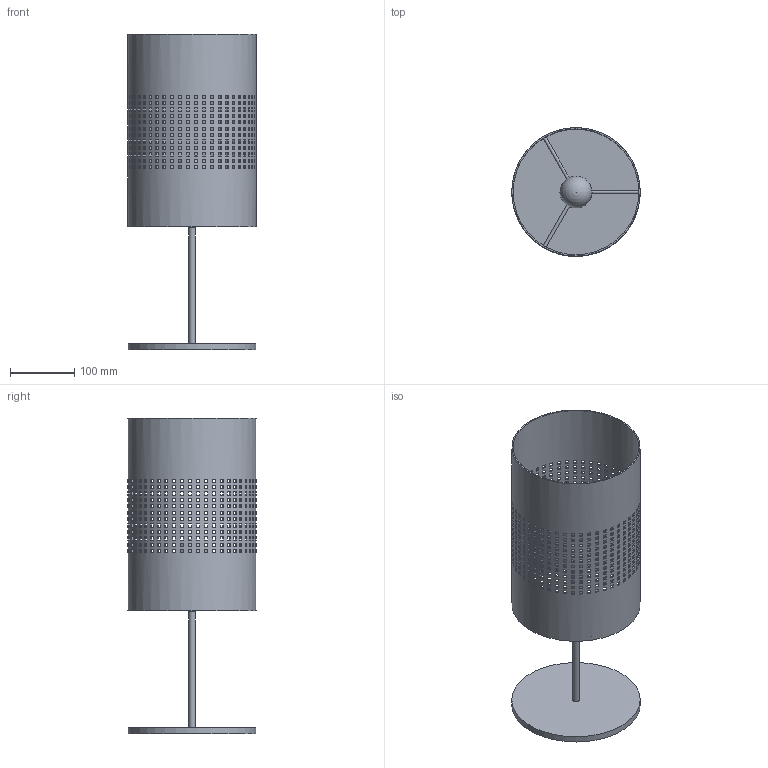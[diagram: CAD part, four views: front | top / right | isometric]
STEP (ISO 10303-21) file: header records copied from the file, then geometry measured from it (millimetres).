
FILE_DESCRIPTION(/* description */ (''),/* implementation_level */ '2;1');
FILE_NAME(/* name */ 'D:\TK Lighting\2021\_Bogard\Bogard Black 5058.stp',/* time_stamp */ '2021-03-01T13:28:48+01:00',/* author */ ('Admin'),/* organization */ (''),/* preprocessor_version */ 'ST-DEVELOPER v16.5',/* originating_system */ 'Autodesk Inventor 2017',/* authorisation */ '');
FILE_SCHEMA (('AUTOMOTIVE_DESIGN { 1 0 10303 214 3 1 1 }'));
Products named in the file (3): Bogard Black 5058; Klosz Bogard Black; Stojak do 5058
Assembly tree (2 placements, depth 2):
  Bogard Black 5058
    Klosz Bogard Black
    Stojak do 5058
Bounding box: 200 x 200 x 492 mm (x, y, z)
Volume: 699487.7 mm3; surface area: 474367 mm2
Topology: 3 solids, 3 shells, 2376 faces, 7101 edges, 4734 vertices
Faces by surface type: plane 2362, cylinder 12, sphere 2
Full cylindrical faces by diameter (mm): 5 x3, 10 x2, 24 x1, 26 x2, 30 x1, 196 x1, 200 x2
Entity records: 83116 total; most frequent: CARTESIAN_POINT 14385, DIRECTION 14204, ORIENTED_EDGE 14160, EDGE_CURVE 7079, AXIS2_PLACEMENT_3D 4750, VERTEX_POINT 4727, LINE 4704, VECTOR 4704
